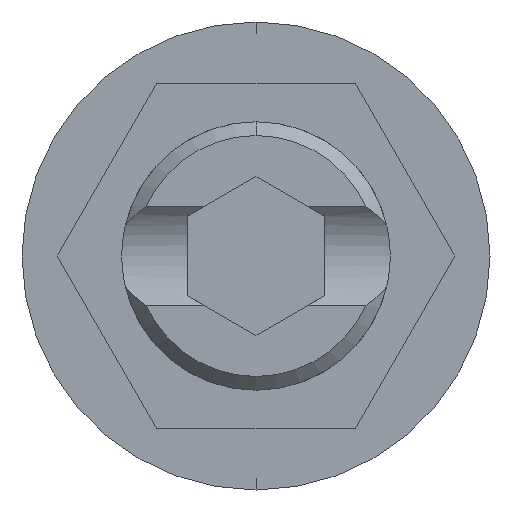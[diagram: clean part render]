
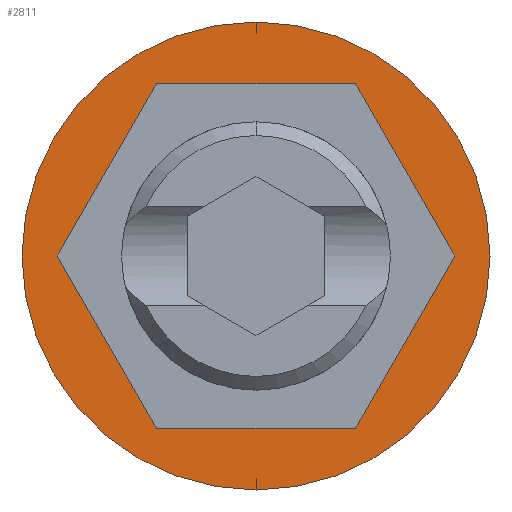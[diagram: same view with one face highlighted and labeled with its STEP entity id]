
A CAD part, front view. The second image highlights one B-rep face of the part: STEP entity #2811.
In plain terms, the highlighted planar face has unit normal (0, -1, 0).
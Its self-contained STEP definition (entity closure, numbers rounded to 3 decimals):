
#2 = FACE_BOUND ( 'NONE', #2573, .T. ) ;
#27 = EDGE_CURVE ( 'NONE', #1079, #575, #2228, .T. ) ;
#108 = LINE ( 'NONE', #2123, #1372 ) ;
#138 = CARTESIAN_POINT ( 'NONE',  ( 2.887, 0., 0. ) ) ;
#142 = ORIENTED_EDGE ( 'NONE', *, *, #710, .F. ) ;
#143 = EDGE_CURVE ( 'NONE', #1625, #3186, #1983, .T. ) ;
#156 = ORIENTED_EDGE ( 'NONE', *, *, #826, .T. ) ;
#271 = DIRECTION ( 'NONE',  ( 0., -1., 0. ) ) ;
#279 = DIRECTION ( 'NONE',  ( 0., -1., 0. ) ) ;
#306 = LINE ( 'NONE', #1051, #2896 ) ;
#348 = CARTESIAN_POINT ( 'NONE',  ( 0., 0., 0. ) ) ;
#435 = EDGE_CURVE ( 'NONE', #1520, #2134, #2635, .T. ) ;
#465 = VECTOR ( 'NONE', #1118, 1000. ) ;
#575 = VERTEX_POINT ( 'NONE', #984 ) ;
#598 = ORIENTED_EDGE ( 'NONE', *, *, #27, .T. ) ;
#631 = ORIENTED_EDGE ( 'NONE', *, *, #143, .F. ) ;
#668 = VECTOR ( 'NONE', #2780, 1000. ) ;
#704 = AXIS2_PLACEMENT_3D ( 'NONE', #2187, #1387, #3027 ) ;
#710 = EDGE_CURVE ( 'NONE', #3186, #1874, #306, .T. ) ;
#797 = CARTESIAN_POINT ( 'NONE',  ( -2.887, 0., 0. ) ) ;
#801 = DIRECTION ( 'NONE',  ( 0., 0., -1. ) ) ;
#826 = EDGE_CURVE ( 'NONE', #575, #1079, #900, .T. ) ;
#830 = CARTESIAN_POINT ( 'NONE',  ( 1.443, 0., 2.5 ) ) ;
#874 = CARTESIAN_POINT ( 'NONE',  ( 0., 0., -3.4 ) ) ;
#900 = CIRCLE ( 'NONE', #1938, 3.4 ) ;
#934 = CARTESIAN_POINT ( 'NONE',  ( 2.887, 0., 0. ) ) ;
#984 = CARTESIAN_POINT ( 'NONE',  ( 0., 0., 3.4 ) ) ;
#996 = EDGE_CURVE ( 'NONE', #1874, #1520, #1979, .T. ) ;
#1051 = CARTESIAN_POINT ( 'NONE',  ( 1.443, 0., 2.5 ) ) ;
#1079 = VERTEX_POINT ( 'NONE', #874 ) ;
#1118 = DIRECTION ( 'NONE',  ( 1., 0., 0. ) ) ;
#1168 = CARTESIAN_POINT ( 'NONE',  ( -1.443, 0., -2.5 ) ) ;
#1333 = VECTOR ( 'NONE', #2122, 1000. ) ;
#1372 = VECTOR ( 'NONE', #1794, 1000. ) ;
#1387 = DIRECTION ( 'NONE',  ( 0., -1., 0. ) ) ;
#1495 = EDGE_CURVE ( 'NONE', #1629, #1625, #108, .T. ) ;
#1509 = CARTESIAN_POINT ( 'NONE',  ( 0., 0., 0. ) ) ;
#1519 = PLANE ( 'NONE',  #1692 ) ;
#1520 = VERTEX_POINT ( 'NONE', #797 ) ;
#1605 = ORIENTED_EDGE ( 'NONE', *, *, #996, .F. ) ;
#1625 = VERTEX_POINT ( 'NONE', #934 ) ;
#1629 = VERTEX_POINT ( 'NONE', #2024 ) ;
#1659 = EDGE_CURVE ( 'NONE', #2134, #1629, #2383, .T. ) ;
#1692 = AXIS2_PLACEMENT_3D ( 'NONE', #1509, #279, #2022 ) ;
#1794 = DIRECTION ( 'NONE',  ( 0.5, 0., 0.866 ) ) ;
#1851 = CARTESIAN_POINT ( 'NONE',  ( -1.443, 0., -2.5 ) ) ;
#1874 = VERTEX_POINT ( 'NONE', #2474 ) ;
#1917 = FACE_OUTER_BOUND ( 'NONE', #2167, .T. ) ;
#1938 = AXIS2_PLACEMENT_3D ( 'NONE', #348, #271, #801 ) ;
#1942 = VECTOR ( 'NONE', #2560, 1000. ) ;
#1979 = LINE ( 'NONE', #2319, #1333 ) ;
#1983 = LINE ( 'NONE', #138, #668 ) ;
#2022 = DIRECTION ( 'NONE',  ( 0., 0., -1. ) ) ;
#2024 = CARTESIAN_POINT ( 'NONE',  ( 1.443, 0., -2.5 ) ) ;
#2122 = DIRECTION ( 'NONE',  ( -0.5, 0., -0.866 ) ) ;
#2123 = CARTESIAN_POINT ( 'NONE',  ( 1.443, 0., -2.5 ) ) ;
#2124 = ORIENTED_EDGE ( 'NONE', *, *, #435, .F. ) ;
#2134 = VERTEX_POINT ( 'NONE', #1851 ) ;
#2167 = EDGE_LOOP ( 'NONE', ( #598, #156 ) ) ;
#2187 = CARTESIAN_POINT ( 'NONE',  ( 0., 0., 0. ) ) ;
#2228 = CIRCLE ( 'NONE', #704, 3.4 ) ;
#2277 = DIRECTION ( 'NONE',  ( -1., 0., 0. ) ) ;
#2319 = CARTESIAN_POINT ( 'NONE',  ( -1.443, 0., 2.5 ) ) ;
#2383 = LINE ( 'NONE', #1168, #465 ) ;
#2426 = ORIENTED_EDGE ( 'NONE', *, *, #1495, .F. ) ;
#2474 = CARTESIAN_POINT ( 'NONE',  ( -1.443, 0., 2.5 ) ) ;
#2524 = CARTESIAN_POINT ( 'NONE',  ( -2.887, 0., 0. ) ) ;
#2560 = DIRECTION ( 'NONE',  ( 0.5, 0., -0.866 ) ) ;
#2573 = EDGE_LOOP ( 'NONE', ( #2640, #2124, #1605, #142, #631, #2426 ) ) ;
#2635 = LINE ( 'NONE', #2524, #1942 ) ;
#2640 = ORIENTED_EDGE ( 'NONE', *, *, #1659, .F. ) ;
#2780 = DIRECTION ( 'NONE',  ( -0.5, 0., 0.866 ) ) ;
#2811 = ADVANCED_FACE ( 'NONE', ( #2, #1917 ), #1519, .T. ) ;
#2896 = VECTOR ( 'NONE', #2277, 1000. ) ;
#3027 = DIRECTION ( 'NONE',  ( 0., 0., -1. ) ) ;
#3186 = VERTEX_POINT ( 'NONE', #830 ) ;
